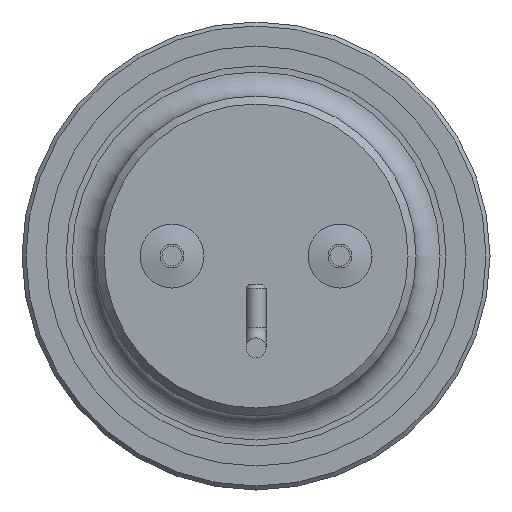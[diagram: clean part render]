
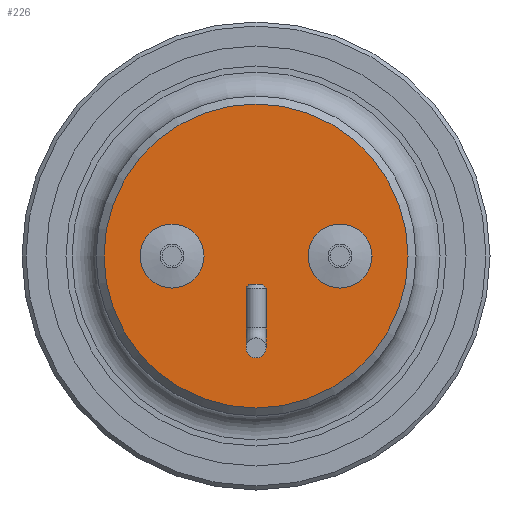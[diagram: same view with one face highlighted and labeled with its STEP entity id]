
A CAD part, front view. The second image highlights one B-rep face of the part: STEP entity #226.
In plain terms, the highlighted planar face has unit normal (0, -1, 0).
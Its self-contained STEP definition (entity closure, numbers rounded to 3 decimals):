
#7 = FACE_OUTER_BOUND ( 'NONE', #63, .T. ) ;
#63 = EDGE_LOOP ( 'NONE', ( #279 ) ) ;
#67 = AXIS2_PLACEMENT_3D ( 'NONE', #157, #239, #321 ) ;
#72 = CIRCLE ( 'NONE', #596, 0.8 ) ;
#80 = ORIENTED_EDGE ( 'NONE', *, *, #421, .F. ) ;
#105 = CIRCLE ( 'NONE', #626, 0.8 ) ;
#157 = CARTESIAN_POINT ( 'NONE',  ( 4., 0., 0. ) ) ;
#226 = ADVANCED_FACE ( 'NONE', ( #771, #820, #7 ), #830, .F. ) ;
#239 = DIRECTION ( 'NONE',  ( 0., 1., 0. ) ) ;
#279 = ORIENTED_EDGE ( 'NONE', *, *, #772, .T. ) ;
#282 = CARTESIAN_POINT ( 'NONE',  ( 2.1, 0., 0. ) ) ;
#294 = VERTEX_POINT ( 'NONE', #334 ) ;
#297 = DIRECTION ( 'NONE',  ( 0., -1., 0. ) ) ;
#321 = DIRECTION ( 'NONE',  ( -1., 0., 0. ) ) ;
#334 = CARTESIAN_POINT ( 'NONE',  ( -1.3, 0., 0. ) ) ;
#344 = CIRCLE ( 'NONE', #704, 3.8 ) ;
#371 = DIRECTION ( 'NONE',  ( 1., 0., 0. ) ) ;
#394 = DIRECTION ( 'NONE',  ( 0., -1., 0. ) ) ;
#421 = EDGE_CURVE ( 'NONE', #294, #294, #105, .T. ) ;
#490 = EDGE_LOOP ( 'NONE', ( #80 ) ) ;
#556 = EDGE_LOOP ( 'NONE', ( #639 ) ) ;
#596 = AXIS2_PLACEMENT_3D ( 'NONE', #282, #871, #371 ) ;
#626 = AXIS2_PLACEMENT_3D ( 'NONE', #806, #297, #848 ) ;
#639 = ORIENTED_EDGE ( 'NONE', *, *, #882, .F. ) ;
#704 = AXIS2_PLACEMENT_3D ( 'NONE', #900, #394, #983 ) ;
#771 = FACE_BOUND ( 'NONE', #556, .T. ) ;
#772 = EDGE_CURVE ( 'NONE', #1036, #1036, #344, .T. ) ;
#806 = CARTESIAN_POINT ( 'NONE',  ( -2.1, 0., 0. ) ) ;
#820 = FACE_BOUND ( 'NONE', #490, .T. ) ;
#830 = PLANE ( 'NONE',  #67 ) ;
#848 = DIRECTION ( 'NONE',  ( 1., 0., 0. ) ) ;
#863 = CARTESIAN_POINT ( 'NONE',  ( 2.9, 0., 0. ) ) ;
#871 = DIRECTION ( 'NONE',  ( 0., -1., 0. ) ) ;
#882 = EDGE_CURVE ( 'NONE', #980, #980, #72, .T. ) ;
#900 = CARTESIAN_POINT ( 'NONE',  ( 0., 0., 0. ) ) ;
#980 = VERTEX_POINT ( 'NONE', #863 ) ;
#983 = DIRECTION ( 'NONE',  ( -1., 0., 0. ) ) ;
#1013 = CARTESIAN_POINT ( 'NONE',  ( -3.8, 0., 0. ) ) ;
#1036 = VERTEX_POINT ( 'NONE', #1013 ) ;
